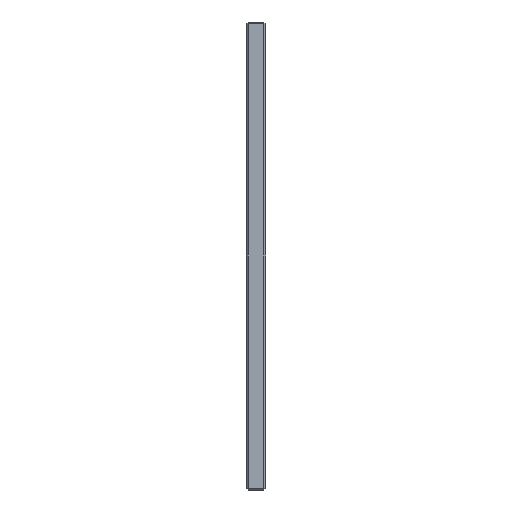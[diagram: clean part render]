
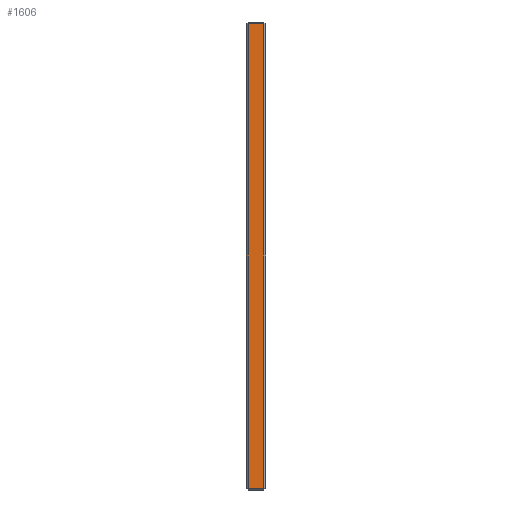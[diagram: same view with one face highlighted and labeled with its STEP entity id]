
A CAD part, left-side view. The second image highlights one B-rep face of the part: STEP entity #1606.
In plain terms, the highlighted planar face has unit normal (-1, 0, 0).
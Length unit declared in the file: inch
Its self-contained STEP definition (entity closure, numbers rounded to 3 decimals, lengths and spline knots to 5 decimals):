
#39 = CARTESIAN_POINT ( 'NONE',  ( -9.9375, 0.5, -5.875 ) ) ;
#156 = DIRECTION ( 'NONE',  ( 0., -1., 0. ) ) ;
#225 = EDGE_CURVE ( 'NONE', #393, #1915, #592, .T. ) ;
#253 = CARTESIAN_POINT ( 'NONE',  ( -9.9375, 0.45, -5.825 ) ) ;
#298 = VERTEX_POINT ( 'NONE', #253 ) ;
#326 = CARTESIAN_POINT ( 'NONE',  ( -9.9375, 0.45, 5.825 ) ) ;
#379 = EDGE_CURVE ( 'NONE', #298, #1737, #937, .T. ) ;
#393 = VERTEX_POINT ( 'NONE', #1485 ) ;
#496 = CARTESIAN_POINT ( 'NONE',  ( -9.9375, 0.05, -5.825 ) ) ;
#508 = VECTOR ( 'NONE', #1742, 39.37008 ) ;
#524 = EDGE_CURVE ( 'NONE', #1915, #298, #1007, .T. ) ;
#538 = ORIENTED_EDGE ( 'NONE', *, *, #751, .T. ) ;
#587 = DIRECTION ( 'NONE',  ( 1., 0., 0. ) ) ;
#592 = LINE ( 'NONE', #841, #508 ) ;
#679 = CARTESIAN_POINT ( 'NONE',  ( -9.9375, 0.05, -5.875 ) ) ;
#741 = CARTESIAN_POINT ( 'NONE',  ( -9.9375, 0.5, -5.825 ) ) ;
#751 = EDGE_CURVE ( 'NONE', #1737, #393, #1637, .T. ) ;
#776 = CARTESIAN_POINT ( 'NONE',  ( -9.9375, 0.45, -5.875 ) ) ;
#790 = VECTOR ( 'NONE', #996, 39.37008 ) ;
#817 = VECTOR ( 'NONE', #936, 39.37008 ) ;
#841 = CARTESIAN_POINT ( 'NONE',  ( -9.9375, 0.5, 5.825 ) ) ;
#923 = EDGE_LOOP ( 'NONE', ( #1762, #1277, #538, #1433 ) ) ;
#936 = DIRECTION ( 'NONE',  ( 0., 0., -1. ) ) ;
#937 = LINE ( 'NONE', #741, #1514 ) ;
#996 = DIRECTION ( 'NONE',  ( 0., 0., 1. ) ) ;
#1007 = LINE ( 'NONE', #776, #817 ) ;
#1277 = ORIENTED_EDGE ( 'NONE', *, *, #379, .T. ) ;
#1358 = DIRECTION ( 'NONE',  ( 0., 0., -1. ) ) ;
#1433 = ORIENTED_EDGE ( 'NONE', *, *, #225, .T. ) ;
#1485 = CARTESIAN_POINT ( 'NONE',  ( -9.9375, 0.05, 5.825 ) ) ;
#1498 = PLANE ( 'NONE',  #1754 ) ;
#1514 = VECTOR ( 'NONE', #156, 39.37008 ) ;
#1546 = FACE_OUTER_BOUND ( 'NONE', #923, .T. ) ;
#1606 = ADVANCED_FACE ( 'Placement Plane', ( #1546 ), #1498, .F. ) ;
#1637 = LINE ( 'NONE', #679, #790 ) ;
#1737 = VERTEX_POINT ( 'NONE', #496 ) ;
#1742 = DIRECTION ( 'NONE',  ( 0., 1., 0. ) ) ;
#1754 = AXIS2_PLACEMENT_3D ( 'NONE', #39, #587, #1358 ) ;
#1762 = ORIENTED_EDGE ( 'NONE', *, *, #524, .T. ) ;
#1915 = VERTEX_POINT ( 'NONE', #326 ) ;
